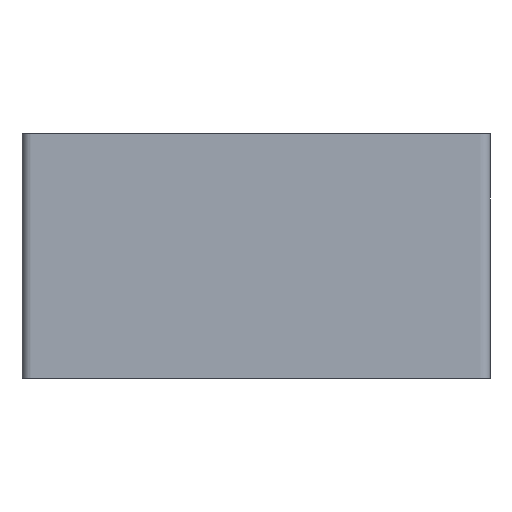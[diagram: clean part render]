
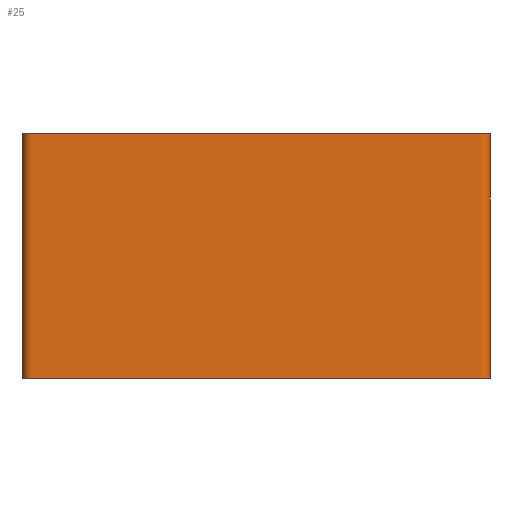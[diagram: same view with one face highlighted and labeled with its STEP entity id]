
A CAD part, top view. The second image highlights one B-rep face of the part: STEP entity #25.
In plain terms, the highlighted free-form (B-spline) face has degree [1, 2] with [2, 11] control points.
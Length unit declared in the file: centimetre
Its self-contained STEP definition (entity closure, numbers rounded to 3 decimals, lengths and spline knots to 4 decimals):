
#25=ADVANCED_FACE($,(#65),#452,.T.);
#65=FACE_OUTER_BOUND($,#105,.T.);
#105=EDGE_LOOP($,(#148,#149,#150,#151));
#148=ORIENTED_EDGE($,*,*,#315,.T.);
#149=ORIENTED_EDGE($,*,*,#313,.T.);
#150=ORIENTED_EDGE($,*,*,#318,.F.);
#151=ORIENTED_EDGE($,*,*,#321,.F.);
#313=EDGE_CURVE($,#396,#397,#497,.T.);
#315=EDGE_CURVE($,#398,#396,#492,.T.);
#318=EDGE_CURVE($,#401,#397,#494,.T.);
#321=EDGE_CURVE($,#398,#401,#501,.T.);
#396=VERTEX_POINT($,#854);
#397=VERTEX_POINT($,#855);
#398=VERTEX_POINT($,#856);
#401=VERTEX_POINT($,#859);
#452=(
BOUNDED_SURFACE()
B_SPLINE_SURFACE(1,2,((#807,#808,#809,#810,#811,#812,#813,#814,#815,#816,
#817),(#818,#819,#820,#821,#822,#823,#824,#825,#826,#827,#828)),.UNSPECIFIED.,
.F.,.F.,.F.)
B_SPLINE_SURFACE_WITH_KNOTS((2,2),(3,2,2,2,2,3),(0.,68.),(-378.6248,
-349.3248,-346.9686,-222.1686,-219.8124,
-190.5124),.UNSPECIFIED.)
GEOMETRIC_REPRESENTATION_ITEM()
RATIONAL_B_SPLINE_SURFACE(((1.,1.,1.,0.707,1.,1.,1.,0.707,
1.,1.,1.),(1.,1.,1.,0.707,1.,1.,1.,0.707,1.,1.,1.)))
REPRESENTATION_ITEM($)
SURFACE()
);
#492=(
BOUNDED_CURVE()
B_SPLINE_CURVE(2,(#752,#753,#754,#755,#756,#757,#758,#759,#760,#761,#762),
.UNSPECIFIED.,.F.,.F.)
B_SPLINE_CURVE_WITH_KNOTS((3,2,2,2,2,3),(190.5124,219.8124,
222.1686,346.9686,349.3248,378.6248),.UNSPECIFIED.)
CURVE()
GEOMETRIC_REPRESENTATION_ITEM()
RATIONAL_B_SPLINE_CURVE((1.,1.,1.,0.707,1.,1.,1.,0.707,
1.,1.,1.))
REPRESENTATION_ITEM($)
);
#494=(
BOUNDED_CURVE()
B_SPLINE_CURVE(2,(#776,#777,#778,#779,#780,#781,#782,#783,#784,#785,#786),
.UNSPECIFIED.,.F.,.F.)
B_SPLINE_CURVE_WITH_KNOTS((3,2,2,2,2,3),(190.5124,219.8124,
222.1686,346.9686,349.3248,378.6248),.UNSPECIFIED.)
CURVE()
GEOMETRIC_REPRESENTATION_ITEM()
RATIONAL_B_SPLINE_CURVE((1.,1.,1.,0.707,1.,1.,1.,0.707,
1.,1.,1.))
REPRESENTATION_ITEM($)
);
#497=B_SPLINE_CURVE_WITH_KNOTS($,1,(#748,#749),.UNSPECIFIED.,.F.,.F.,(2,
2),(0.,68.),.UNSPECIFIED.);
#501=B_SPLINE_CURVE_WITH_KNOTS($,1,(#800,#801),.UNSPECIFIED.,.F.,.F.,(2,
2),(0.,68.),.UNSPECIFIED.);
#748=CARTESIAN_POINT($,(130.2,0.,0.));
#749=CARTESIAN_POINT($,(130.2,68.,0.));
#752=CARTESIAN_POINT($,(0.,0.,0.));
#753=CARTESIAN_POINT($,(0.,0.,14.65));
#754=CARTESIAN_POINT($,(0.,0.,29.3));
#755=CARTESIAN_POINT($,(0.,0.,32.));
#756=CARTESIAN_POINT($,(2.7,0.,32.));
#757=CARTESIAN_POINT($,(65.1,0.,32.));
#758=CARTESIAN_POINT($,(127.5,0.,32.));
#759=CARTESIAN_POINT($,(130.2,0.,32.));
#760=CARTESIAN_POINT($,(130.2,0.,29.3));
#761=CARTESIAN_POINT($,(130.2,0.,14.65));
#762=CARTESIAN_POINT($,(130.2,0.,0.));
#776=CARTESIAN_POINT($,(0.,68.,0.));
#777=CARTESIAN_POINT($,(0.,68.,14.65));
#778=CARTESIAN_POINT($,(0.,68.,29.3));
#779=CARTESIAN_POINT($,(0.,68.,32.));
#780=CARTESIAN_POINT($,(2.7,68.,32.));
#781=CARTESIAN_POINT($,(65.1,68.,32.));
#782=CARTESIAN_POINT($,(127.5,68.,32.));
#783=CARTESIAN_POINT($,(130.2,68.,32.));
#784=CARTESIAN_POINT($,(130.2,68.,29.3));
#785=CARTESIAN_POINT($,(130.2,68.,14.65));
#786=CARTESIAN_POINT($,(130.2,68.,0.));
#800=CARTESIAN_POINT($,(0.,0.,0.));
#801=CARTESIAN_POINT($,(0.,68.,0.));
#807=CARTESIAN_POINT($,(130.2,0.,0.));
#808=CARTESIAN_POINT($,(130.2,0.,14.65));
#809=CARTESIAN_POINT($,(130.2,0.,29.3));
#810=CARTESIAN_POINT($,(130.2,0.,32.));
#811=CARTESIAN_POINT($,(127.5,0.,32.));
#812=CARTESIAN_POINT($,(65.1,0.,32.));
#813=CARTESIAN_POINT($,(2.7,0.,32.));
#814=CARTESIAN_POINT($,(0.,0.,32.));
#815=CARTESIAN_POINT($,(0.,0.,29.3));
#816=CARTESIAN_POINT($,(0.,0.,14.65));
#817=CARTESIAN_POINT($,(0.,0.,0.));
#818=CARTESIAN_POINT($,(130.2,68.,0.));
#819=CARTESIAN_POINT($,(130.2,68.,14.65));
#820=CARTESIAN_POINT($,(130.2,68.,29.3));
#821=CARTESIAN_POINT($,(130.2,68.,32.));
#822=CARTESIAN_POINT($,(127.5,68.,32.));
#823=CARTESIAN_POINT($,(65.1,68.,32.));
#824=CARTESIAN_POINT($,(2.7,68.,32.));
#825=CARTESIAN_POINT($,(0.,68.,32.));
#826=CARTESIAN_POINT($,(0.,68.,29.3));
#827=CARTESIAN_POINT($,(0.,68.,14.65));
#828=CARTESIAN_POINT($,(0.,68.,0.));
#854=CARTESIAN_POINT($,(130.2,0.,0.));
#855=CARTESIAN_POINT($,(130.2,68.,0.));
#856=CARTESIAN_POINT($,(0.,0.,0.));
#859=CARTESIAN_POINT($,(0.,68.,0.));
